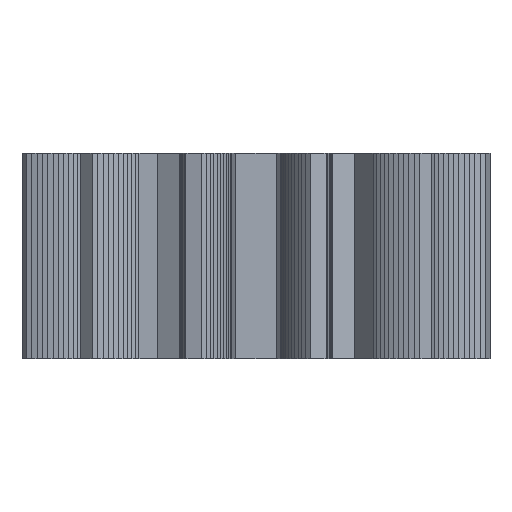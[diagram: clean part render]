
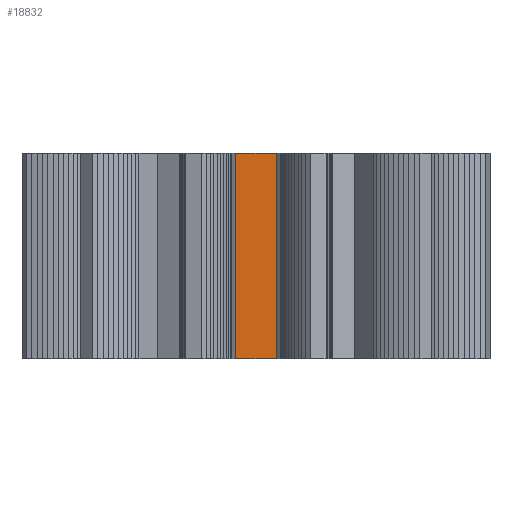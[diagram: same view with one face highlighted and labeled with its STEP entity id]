
A CAD part, front view. The second image highlights one B-rep face of the part: STEP entity #18832.
In plain terms, the highlighted planar face has unit normal (0, -1, 0) as drawn and (-0.259, -0.966, 0) by its records, which use the part's own axes.
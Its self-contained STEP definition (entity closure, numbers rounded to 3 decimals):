
#90 = PLANE('',#91);
#91 = AXIS2_PLACEMENT_3D('',#92,#93,#94);
#92 = CARTESIAN_POINT('',(0.,0.,6.));
#93 = DIRECTION('',(0.,0.,1.));
#94 = DIRECTION('',(1.,0.,-0.));
#144 = PLANE('',#145);
#145 = AXIS2_PLACEMENT_3D('',#146,#147,#148);
#146 = CARTESIAN_POINT('',(0.,0.,0.));
#147 = DIRECTION('',(0.,0.,1.));
#148 = DIRECTION('',(1.,0.,-0.));
#6273 = VERTEX_POINT('',#6274);
#6274 = CARTESIAN_POINT('',(-1.796,-4.397,0.));
#6288 = PLANE('',#6289);
#6289 = AXIS2_PLACEMENT_3D('',#6290,#6291,#6292);
#6290 = CARTESIAN_POINT('',(-2.132,-5.219,0.));
#6291 = DIRECTION('',(-0.926,0.378,0.));
#6292 = DIRECTION('',(0.378,0.926,0.));
#6300 = EDGE_CURVE('',#6273,#6301,#6303,.T.);
#6301 = VERTEX_POINT('',#6302);
#6302 = CARTESIAN_POINT('',(-0.643,-4.706,0.));
#6303 = SURFACE_CURVE('',#6304,(#6308,#6315),.PCURVE_S1.);
#6304 = LINE('',#6305,#6306);
#6305 = CARTESIAN_POINT('',(-1.796,-4.397,0.));
#6306 = VECTOR('',#6307,1.);
#6307 = DIRECTION('',(0.966,-0.259,0.));
#6308 = PCURVE('',#144,#6309);
#6309 = DEFINITIONAL_REPRESENTATION('',(#6310),#6314);
#6310 = LINE('',#6311,#6312);
#6311 = CARTESIAN_POINT('',(-1.796,-4.397));
#6312 = VECTOR('',#6313,1.);
#6313 = DIRECTION('',(0.966,-0.259));
#6314 = ( GEOMETRIC_REPRESENTATION_CONTEXT(2) 
PARAMETRIC_REPRESENTATION_CONTEXT() REPRESENTATION_CONTEXT('2D SPACE',''
  ) );
#6315 = PCURVE('',#6316,#6321);
#6316 = PLANE('',#6317);
#6317 = AXIS2_PLACEMENT_3D('',#6318,#6319,#6320);
#6318 = CARTESIAN_POINT('',(-1.796,-4.397,0.));
#6319 = DIRECTION('',(0.259,0.966,-0.));
#6320 = DIRECTION('',(0.966,-0.259,0.));
#6321 = DEFINITIONAL_REPRESENTATION('',(#6322),#6326);
#6322 = LINE('',#6323,#6324);
#6323 = CARTESIAN_POINT('',(0.,0.));
#6324 = VECTOR('',#6325,1.);
#6325 = DIRECTION('',(1.,0.));
#6326 = ( GEOMETRIC_REPRESENTATION_CONTEXT(2) 
PARAMETRIC_REPRESENTATION_CONTEXT() REPRESENTATION_CONTEXT('2D SPACE',''
  ) );
#6344 = PLANE('',#6345);
#6345 = AXIS2_PLACEMENT_3D('',#6346,#6347,#6348);
#6346 = CARTESIAN_POINT('',(-0.643,-4.706,0.));
#6347 = DIRECTION('',(0.991,-0.135,0.));
#6348 = DIRECTION('',(-0.135,-0.991,0.));
#13303 = VERTEX_POINT('',#13304);
#13304 = CARTESIAN_POINT('',(-1.796,-4.397,6.));
#13325 = EDGE_CURVE('',#13303,#13326,#13328,.T.);
#13326 = VERTEX_POINT('',#13327);
#13327 = CARTESIAN_POINT('',(-0.643,-4.706,6.));
#13328 = SURFACE_CURVE('',#13329,(#13333,#13340),.PCURVE_S1.);
#13329 = LINE('',#13330,#13331);
#13330 = CARTESIAN_POINT('',(-1.796,-4.397,6.));
#13331 = VECTOR('',#13332,1.);
#13332 = DIRECTION('',(0.966,-0.259,0.));
#13333 = PCURVE('',#90,#13334);
#13334 = DEFINITIONAL_REPRESENTATION('',(#13335),#13339);
#13335 = LINE('',#13336,#13337);
#13336 = CARTESIAN_POINT('',(-1.796,-4.397));
#13337 = VECTOR('',#13338,1.);
#13338 = DIRECTION('',(0.966,-0.259));
#13339 = ( GEOMETRIC_REPRESENTATION_CONTEXT(2) 
PARAMETRIC_REPRESENTATION_CONTEXT() REPRESENTATION_CONTEXT('2D SPACE',''
  ) );
#13340 = PCURVE('',#6316,#13341);
#13341 = DEFINITIONAL_REPRESENTATION('',(#13342),#13346);
#13342 = LINE('',#13343,#13344);
#13343 = CARTESIAN_POINT('',(0.,-6.));
#13344 = VECTOR('',#13345,1.);
#13345 = DIRECTION('',(1.,0.));
#13346 = ( GEOMETRIC_REPRESENTATION_CONTEXT(2) 
PARAMETRIC_REPRESENTATION_CONTEXT() REPRESENTATION_CONTEXT('2D SPACE',''
  ) );
#18782 = EDGE_CURVE('',#6301,#13326,#18783,.T.);
#18783 = SURFACE_CURVE('',#18784,(#18788,#18795),.PCURVE_S1.);
#18784 = LINE('',#18785,#18786);
#18785 = CARTESIAN_POINT('',(-0.643,-4.706,0.));
#18786 = VECTOR('',#18787,1.);
#18787 = DIRECTION('',(0.,0.,1.));
#18788 = PCURVE('',#6344,#18789);
#18789 = DEFINITIONAL_REPRESENTATION('',(#18790),#18794);
#18790 = LINE('',#18791,#18792);
#18791 = CARTESIAN_POINT('',(0.,0.));
#18792 = VECTOR('',#18793,1.);
#18793 = DIRECTION('',(0.,-1.));
#18794 = ( GEOMETRIC_REPRESENTATION_CONTEXT(2) 
PARAMETRIC_REPRESENTATION_CONTEXT() REPRESENTATION_CONTEXT('2D SPACE',''
  ) );
#18795 = PCURVE('',#6316,#18796);
#18796 = DEFINITIONAL_REPRESENTATION('',(#18797),#18801);
#18797 = LINE('',#18798,#18799);
#18798 = CARTESIAN_POINT('',(1.194,0.));
#18799 = VECTOR('',#18800,1.);
#18800 = DIRECTION('',(0.,-1.));
#18801 = ( GEOMETRIC_REPRESENTATION_CONTEXT(2) 
PARAMETRIC_REPRESENTATION_CONTEXT() REPRESENTATION_CONTEXT('2D SPACE',''
  ) );
#18832 = ADVANCED_FACE('',(#18833),#6316,.F.);
#18833 = FACE_BOUND('',#18834,.F.);
#18834 = EDGE_LOOP('',(#18835,#18856,#18857,#18858));
#18835 = ORIENTED_EDGE('',*,*,#18836,.T.);
#18836 = EDGE_CURVE('',#6273,#13303,#18837,.T.);
#18837 = SURFACE_CURVE('',#18838,(#18842,#18849),.PCURVE_S1.);
#18838 = LINE('',#18839,#18840);
#18839 = CARTESIAN_POINT('',(-1.796,-4.397,0.));
#18840 = VECTOR('',#18841,1.);
#18841 = DIRECTION('',(0.,0.,1.));
#18842 = PCURVE('',#6316,#18843);
#18843 = DEFINITIONAL_REPRESENTATION('',(#18844),#18848);
#18844 = LINE('',#18845,#18846);
#18845 = CARTESIAN_POINT('',(0.,0.));
#18846 = VECTOR('',#18847,1.);
#18847 = DIRECTION('',(0.,-1.));
#18848 = ( GEOMETRIC_REPRESENTATION_CONTEXT(2) 
PARAMETRIC_REPRESENTATION_CONTEXT() REPRESENTATION_CONTEXT('2D SPACE',''
  ) );
#18849 = PCURVE('',#6288,#18850);
#18850 = DEFINITIONAL_REPRESENTATION('',(#18851),#18855);
#18851 = LINE('',#18852,#18853);
#18852 = CARTESIAN_POINT('',(0.888,0.));
#18853 = VECTOR('',#18854,1.);
#18854 = DIRECTION('',(0.,-1.));
#18855 = ( GEOMETRIC_REPRESENTATION_CONTEXT(2) 
PARAMETRIC_REPRESENTATION_CONTEXT() REPRESENTATION_CONTEXT('2D SPACE',''
  ) );
#18856 = ORIENTED_EDGE('',*,*,#13325,.T.);
#18857 = ORIENTED_EDGE('',*,*,#18782,.F.);
#18858 = ORIENTED_EDGE('',*,*,#6300,.F.);
